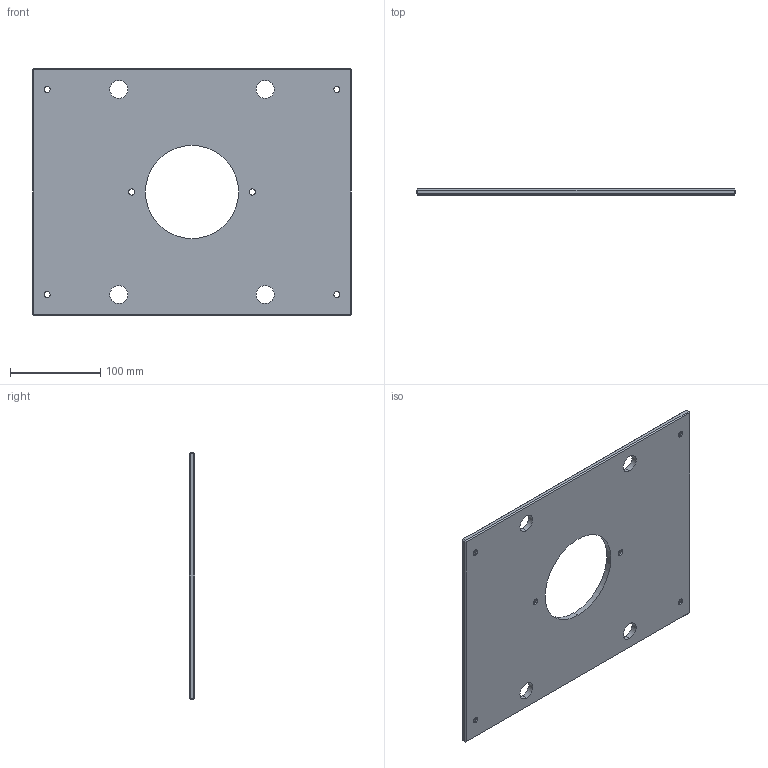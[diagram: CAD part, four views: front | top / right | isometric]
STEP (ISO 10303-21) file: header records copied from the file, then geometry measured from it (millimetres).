
FILE_DESCRIPTION (( 'STEP AP214' ), '1' );
FILE_NAME ('ME-0619-CH-1114.STEP', '2020-02-10T14:24:44', ( '' ), ( '' ), 'SwSTEP 2.0', 'SolidWorks 2018', '' );
FILE_SCHEMA (( 'AUTOMOTIVE_DESIGN' ));
Length unit declared in the file: inch
Products named in the file (1): ME-0619-CH-1114
Bounding box: 352.43 x 6.35 x 273.05 mm (x, y, z)
Volume: 545352.9 mm3; surface area: 183198 mm2
Topology: 1 solids, 1 shells, 60 faces, 138 edges, 80 vertices
Faces by surface type: plane 26, cylinder 22, cone 12
Entity records: 1754 total; most frequent: DIRECTION 316, CARTESIAN_POINT 279, ORIENTED_EDGE 276, EDGE_CURVE 138, AXIS2_PLACEMENT_3D 117, VECTOR 82, EDGE_LOOP 82, LINE 82
